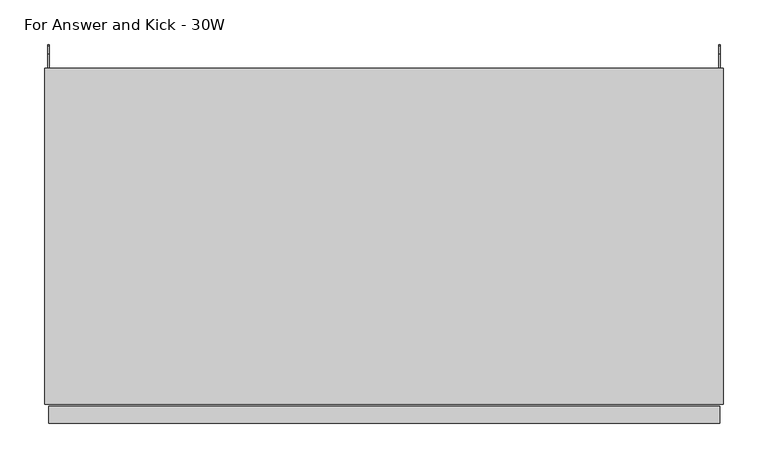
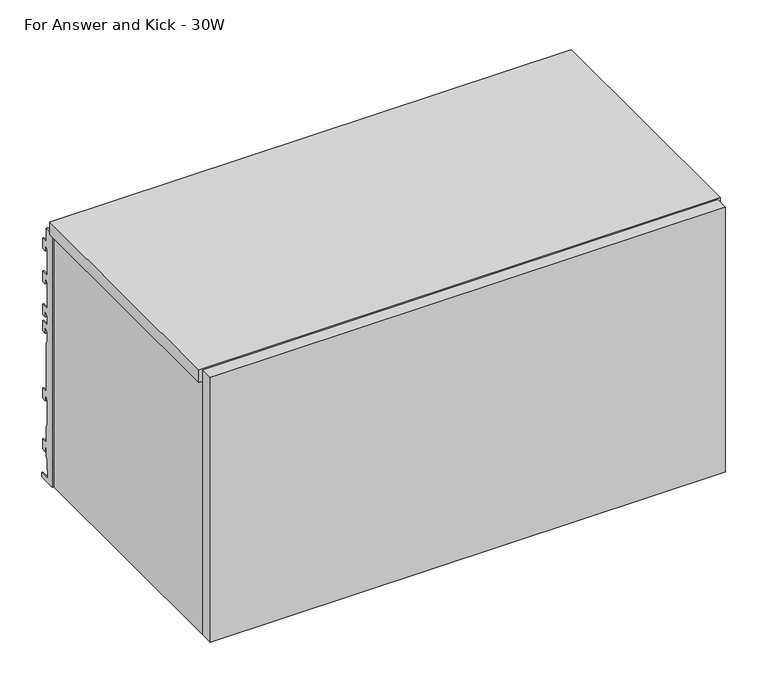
"""IFC4 building model written with IfcOpenShell, lengths in millimetres: furniture geometry, Steelcase - Universal Storage - Over the Case Bin - Flat Front : For Answer and Kick - 30W."""

from ifc_helpers import new_model, si_unit, frame, origin, place, context, project, spatial, polyline, outline, extrude, source, transform, mapped, element, save


def for_answer_and_kick_30w_8ec1dbc8(model_context):
    return source(origin(), model_context, "Body", "SweptSolid", [
        extrude(outline(polyline([(0.0, 1657.096), (15.428165, 1657.096), (15.428165, 1635.9725192), (24.6737648, 1635.9725192), (24.6737648, 1620.2499324), (17.7141651, 1620.2499324), (17.7141651, 1627.4034202), (15.428165, 1627.4034202), (13.3707653, 1623.8398995), (13.3707653, 1584.7332049), (24.4959651, 1584.7332049), (24.4959651, 1569.0106181), (17.7141651, 1569.0106181), (17.7141651, 1576.1734076), (15.428165, 1576.1734076), (13.3707653, 1572.6099624), (13.3707653, 1533.4938907), (24.6737648, 1533.4938907), (24.6737648, 1517.7713038), (17.5768, 1517.7713038), (17.5768, 1524.9340934), (15.4248855, 1524.9340934), (13.3349998, 1521.3219111), (13.3349998, 1508.4166423), (24.6737648, 1508.4166423), (24.6737648, 1492.6940555), (17.5768, 1492.6940555), (17.5768, 1499.856845), (15.4205129, 1499.856845), (13.3933344, 1496.3530466), (13.3933344, 1483.6530466), (15.428165, 1479.2893385), (15.428165, 1403.8551467), (24.6737648, 1403.8551467), (24.6737648, 1388.1325599), (17.7141651, 1388.1325599), (17.7141651, 1395.2982562), (15.428165, 1395.2982562), (13.3306079, 1391.6651808), (13.3306079, 1353.5651808), (15.428165, 1349.9321054), (15.428165, 1325.1000701), (24.6737648, 1325.1000701), (24.6737648, 1309.3774833), (17.7141651, 1309.3774833), (17.7141651, 1316.5328605), (15.428165, 1316.5328605), (15.428165, 1303.5355433), (13.2046809, 1299.684356), (13.2046809, 1282.9679719), (11.2879653, 1282.9679719), (11.2879653, 1271.9303504), (26.4009645, 1271.9303504), (26.4009645, 1265.428), (0.0, 1265.428), (0.0, 1657.096)])), frame((756.4882, 0.0, 0.0), z_axis=(1.0, 0.0, 0.0), x_axis=(0.0, 1.0, 0.0)), (0.0, 0.0, 1.0), 1.905),
        extrude(outline(polyline([(0.0, 1657.096), (15.428165, 1657.096), (15.428165, 1635.9725192), (24.6737648, 1635.9725192), (24.6737648, 1620.2499324), (17.7141651, 1620.2499324), (17.7141651, 1627.4034202), (15.428165, 1627.4034202), (13.3707653, 1623.8398995), (13.3707653, 1584.7332049), (24.4959651, 1584.7332049), (24.4959651, 1569.0106181), (17.7141651, 1569.0106181), (17.7141651, 1576.1734076), (15.428165, 1576.1734076), (13.3707653, 1572.6099624), (13.3707653, 1533.4938907), (24.6737648, 1533.4938907), (24.6737648, 1517.7713038), (17.5768, 1517.7713038), (17.5768, 1524.9340934), (15.4248855, 1524.9340934), (13.3349998, 1521.3219111), (13.3349998, 1508.4166423), (24.6737648, 1508.4166423), (24.6737648, 1492.6940555), (17.5768, 1492.6940555), (17.5768, 1499.856845), (15.4205129, 1499.856845), (13.3933344, 1496.3530466), (13.3933344, 1483.6530466), (15.428165, 1479.2893385), (15.428165, 1403.8551467), (24.6737648, 1403.8551467), (24.6737648, 1388.1325599), (17.7141651, 1388.1325599), (17.7141651, 1395.2982562), (15.428165, 1395.2982562), (13.3306079, 1391.6651808), (13.3306079, 1353.5651808), (15.428165, 1349.9321054), (15.428165, 1325.1000701), (24.6737648, 1325.1000701), (24.6737648, 1309.3774833), (17.7141651, 1309.3774833), (17.7141651, 1316.5328605), (15.428165, 1316.5328605), (15.428165, 1303.5355433), (13.2046809, 1299.684356), (13.2046809, 1282.9679719), (11.2879653, 1282.9679719), (11.2879653, 1271.9303504), (26.4009645, 1271.9303504), (26.4009645, 1265.428), (0.0, 1265.428), (0.0, 1657.096)])), frame((3.6068, 0.0, 0.0), z_axis=(1.0, 0.0, 0.0), x_axis=(0.0, 1.0, 0.0)), (0.0, 0.0, 1.0), 1.905),
        extrude(outline(polyline([(4.4448587, -379.476), (757.5703, -379.476), (757.5703, -398.526), (4.4448587, -398.526), (4.4448587, -379.476)])), frame((0.0, 0.0, 1266.8226746), z_axis=(0.0, 0.0, 1.0), x_axis=(1.0, 0.0, 0.0)), (0.0, 0.0, 1.0), 409.5773254),
        extrude(outline(polyline([(762.0, -377.213238), (0.0, -377.213238), (0.0, 0.0), (762.0, 0.0), (762.0, -377.213238)])), frame((0.0, 0.0, 1657.35), z_axis=(0.0, 0.0, 1.0), x_axis=(1.0, 0.0, 0.0)), (0.0, 0.0, 1.0), 19.05),
        extrude(outline(polyline([(15.875, -377.213238), (5.5118, -377.213238), (5.5118, 0.0), (15.875, 0.0), (15.875, -377.213238)])), frame((0.0, 0.0, 1265.428), z_axis=(0.0, 0.0, 1.0), x_axis=(1.0, 0.0, 0.0)), (0.0, 0.0, 1.0), 391.6679457),
        extrude(outline(polyline([(760.8568665, -377.213238), (746.125, -377.213238), (746.125, 0.0), (760.8568665, 0.0), (760.8568665, -377.213238)])), frame((0.0, 0.0, 1265.428), z_axis=(0.0, 0.0, 1.0), x_axis=(1.0, 0.0, 0.0)), (0.0, 0.0, 1.0), 391.6679457),
        extrude(outline(polyline([(-35.4584098, 1372.819257), (-27.0763996, 1372.819257), (-27.0763996, 1360.1191601), (-33.4264117, 1360.1191601), (-33.4264117, 1323.1622589), (-27.0763996, 1323.1622589), (-27.0763996, 1265.428), (-35.4584098, 1265.428), (-35.4584098, 1293.054213), (-46.1263996, 1293.054213), (-46.1263996, 1268.1875622), (-59.9694137, 1268.1875622), (-59.9694137, 1294.8575912), (-332.8542818, 1294.8575912), (-332.8542818, 1268.1875622), (-377.3042823, 1268.1875622), (-377.3042823, 1310.7072052), (-35.4584098, 1310.7072052), (-35.4584098, 1372.819257)])), frame((15.875, 0.0, 0.0), z_axis=(1.0, 0.0, 0.0), x_axis=(0.0, 1.0, 0.0)), (0.0, 0.0, 1.0), 730.25),
    ])


if __name__ == "__main__":
    model = new_model("IFC4")
    model_context = context("Model", 3, world=origin())
    ifc_project = project(units=[si_unit("LENGTHUNIT", "METRE", prefix="MILLI")], contexts=[model_context])
    site = spatial("IfcSite", under=ifc_project)
    building = spatial("IfcBuilding", under=site)
    placement = place(None, origin())
    for_answer_and_kick_30w_shape = for_answer_and_kick_30w_8ec1dbc8(model_context)
    element("IfcFurniture", 1, ObjectType="Steelcase - Universal Storage - Over the Case Bin - Flat Front : For Answer and Kick - 30W", at=placement, inside=building, context=model_context, shape_type="MappedRepresentation", body=[
        mapped(for_answer_and_kick_30w_shape, transform((0.0, 0.0, 0.0), x_axis=(1.0, 0.0, 0.0), y_axis=(0.0, 1.0, 0.0), z_axis=(0.0, 0.0, 1.0))),
    ])
    save(model, "model.ifc")
